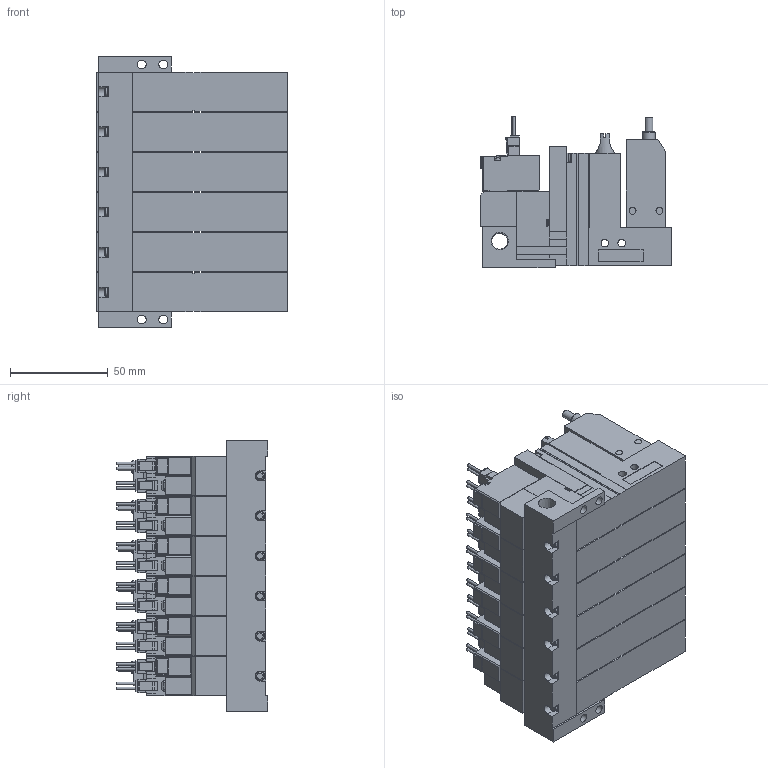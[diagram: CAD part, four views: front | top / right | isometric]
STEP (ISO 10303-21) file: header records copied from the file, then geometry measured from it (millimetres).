
FILE_DESCRIPTION(('STEP AP203'),'1');
FILE_NAME('ABS_ABPLC5ALR606.stp','2025-02-19T02:15:13',(' '),(' '),'Spatial InterOp 3D',' ',' ');
FILE_SCHEMA(('CONFIG_CONTROL_DESIGN'));
Length unit declared in the file: millimetre
Products named in the file (5): BMC22M※※※※ABS_ABPLC5ALR606; Solenoid valve A; Pressure sensor ABSLC; Unit LC; Base MR60R
Assembly tree (19 placements, depth 2):
  BMC22M※※※※ABS_ABPLC5ALR606
    Solenoid valve A  x6
    Pressure sensor ABSLC  x6
    Unit LC  x6
    Base MR60R
Bounding box: 97.6 x 77.45 x 138.5 mm (x, y, z)
Volume: 614747.4 mm3; surface area: 160605.5 mm2
Topology: 19 solids, 19 shells, 2487 faces, 6665 edges, 4372 vertices
Faces by surface type: plane 2114, cylinder 293, cone 44, torus 36
Full cylindrical faces by diameter (mm): 1.4 x24, 2.5 x6, 3 x24, 3.5 x36, 3.6 x6, 4 x18, 4.134 x6, 4.5 x4, 5.2 x6, 6 x6, 6.5 x6, 6.6 x6, 8.279 x1
Entity records: 15840 total; most frequent: CARTESIAN_POINT 3050, DIRECTION 2520, ORIENTED_EDGE 2474, EDGE_CURVE 1237, LINE 1004, VECTOR 1004, VERTEX_POINT 862, AXIS2_PLACEMENT_3D 758
